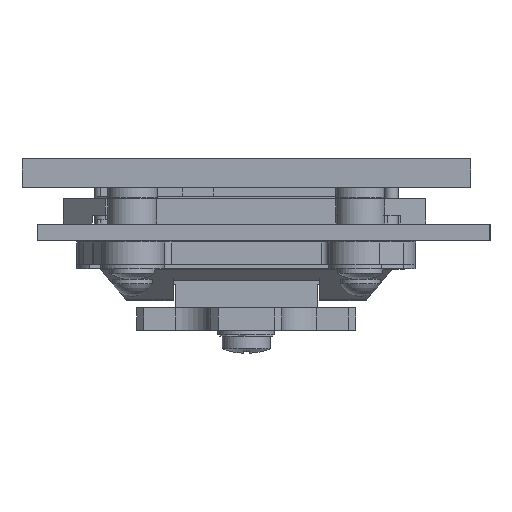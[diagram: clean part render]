
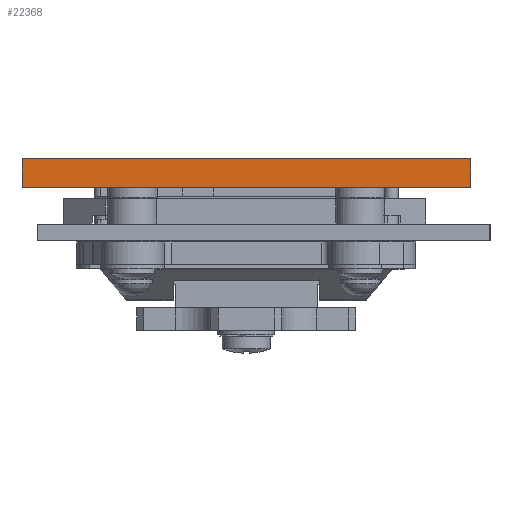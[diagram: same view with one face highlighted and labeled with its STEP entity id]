
A CAD part, left-side view. The second image highlights one B-rep face of the part: STEP entity #22368.
In plain terms, the highlighted planar face has unit normal (-1, 0, 0).
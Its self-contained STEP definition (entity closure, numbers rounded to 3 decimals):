
#21465=CARTESIAN_POINT('',(-28.9,27.3,-2.925));
#21466=VERTEX_POINT('',#21465);
#21467=CARTESIAN_POINT('',(-28.9,-36.2,-2.925));
#21468=VERTEX_POINT('',#21467);
#21469=CARTESIAN_POINT('',(-28.9,27.3,-2.925));
#21470=DIRECTION('',(0.0,-1.0,0.0));
#21471=VECTOR('',#21470,63.5);
#21472=LINE('',#21469,#21471);
#21473=EDGE_CURVE('',#21466,#21468,#21472,.T.);
#22278=CARTESIAN_POINT('',(-28.9,27.3,1.139));
#22279=VERTEX_POINT('',#22278);
#22295=CARTESIAN_POINT('',(-28.9,27.3,-2.925));
#22296=DIRECTION('',(0.0,0.0,1.0));
#22297=VECTOR('',#22296,4.064);
#22298=LINE('',#22295,#22297);
#22299=EDGE_CURVE('',#21466,#22279,#22298,.T.);
#22333=CARTESIAN_POINT('',(-28.9,-36.2,1.139));
#22334=VERTEX_POINT('',#22333);
#22341=CARTESIAN_POINT('',(-28.9,-36.2,-2.925));
#22342=DIRECTION('',(0.0,0.0,1.0));
#22343=VECTOR('',#22342,4.064);
#22344=LINE('',#22341,#22343);
#22345=EDGE_CURVE('',#21468,#22334,#22344,.T.);
#22352=CARTESIAN_POINT('',(-28.9,-36.2,-2.925));
#22353=DIRECTION('',(-1.0,0.0,0.0));
#22354=DIRECTION('',(0.0,0.0,1.0));
#22355=AXIS2_PLACEMENT_3D('',#22352,#22353,#22354);
#22356=PLANE('',#22355);
#22357=CARTESIAN_POINT('',(-28.9,-36.2,1.139));
#22358=DIRECTION('',(0.0,1.0,0.0));
#22359=VECTOR('',#22358,63.5);
#22360=LINE('',#22357,#22359);
#22361=EDGE_CURVE('',#22334,#22279,#22360,.T.);
#22362=ORIENTED_EDGE('',*,*,#22361,.T.);
#22363=ORIENTED_EDGE('',*,*,#22299,.F.);
#22364=ORIENTED_EDGE('',*,*,#21473,.T.);
#22365=ORIENTED_EDGE('',*,*,#22345,.T.);
#22366=EDGE_LOOP('',(#22362,#22363,#22364,#22365));
#22367=FACE_OUTER_BOUND('',#22366,.T.);
#22368=ADVANCED_FACE('',(#22367),#22356,.T.);
